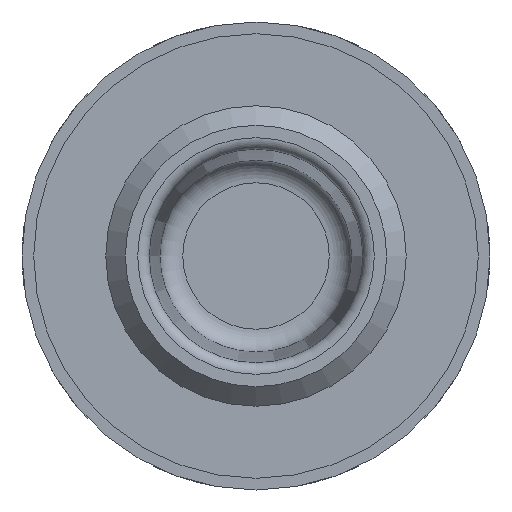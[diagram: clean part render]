
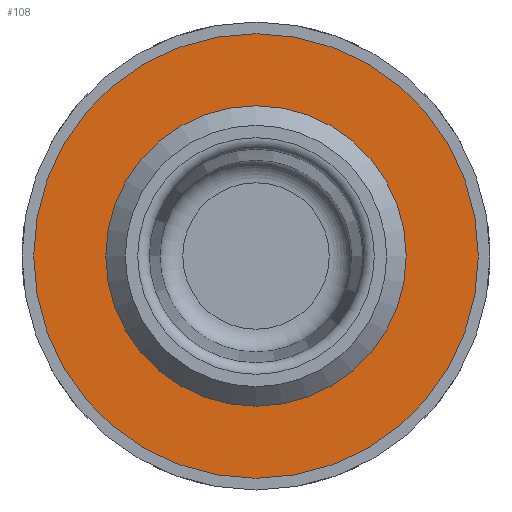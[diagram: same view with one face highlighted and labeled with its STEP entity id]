
A CAD part, left-side view. The second image highlights one B-rep face of the part: STEP entity #108.
In plain terms, the highlighted planar face has unit normal (-1, 0, 0).
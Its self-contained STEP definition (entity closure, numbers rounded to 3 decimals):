
#108 = ADVANCED_FACE( '', ( #200, #201 ), #202, .T. );
#200 = FACE_BOUND( '', #326, .T. );
#201 = FACE_OUTER_BOUND( '', #327, .T. );
#202 = PLANE( '', #328 );
#326 = EDGE_LOOP( '', ( #611 ) );
#327 = EDGE_LOOP( '', ( #612 ) );
#328 = AXIS2_PLACEMENT_3D( '', #613, #614, #615 );
#611 = ORIENTED_EDGE( '', *, *, #924, .T. );
#612 = ORIENTED_EDGE( '', *, *, #925, .F. );
#613 = CARTESIAN_POINT( '', ( 8.1, 9.738, 0. ) );
#614 = DIRECTION( '', ( -1., 0., 0. ) );
#615 = DIRECTION( '', ( 0., -1., 0. ) );
#924 = EDGE_CURVE( '', #1140, #1140, #1141, .T. );
#925 = EDGE_CURVE( '', #1142, #1142, #1143, .T. );
#1140 = VERTEX_POINT( '', #1488 );
#1141 = CIRCLE( '', #1489, 6.579 );
#1142 = VERTEX_POINT( '', #1490 );
#1143 = CIRCLE( '', #1491, 9.738 );
#1488 = CARTESIAN_POINT( '', ( 8.1, 6.579, 0. ) );
#1489 = AXIS2_PLACEMENT_3D( '', #1662, #1663, #1664 );
#1490 = CARTESIAN_POINT( '', ( 8.1, 9.738, 0. ) );
#1491 = AXIS2_PLACEMENT_3D( '', #1665, #1666, #1667 );
#1662 = CARTESIAN_POINT( '', ( 8.1, 0., 0. ) );
#1663 = DIRECTION( '', ( 1., 0., 0. ) );
#1664 = DIRECTION( '', ( 0., 1., 0. ) );
#1665 = CARTESIAN_POINT( '', ( 8.1, 0., 0. ) );
#1666 = DIRECTION( '', ( 1., 0., 0. ) );
#1667 = DIRECTION( '', ( 0., 1., 0. ) );
